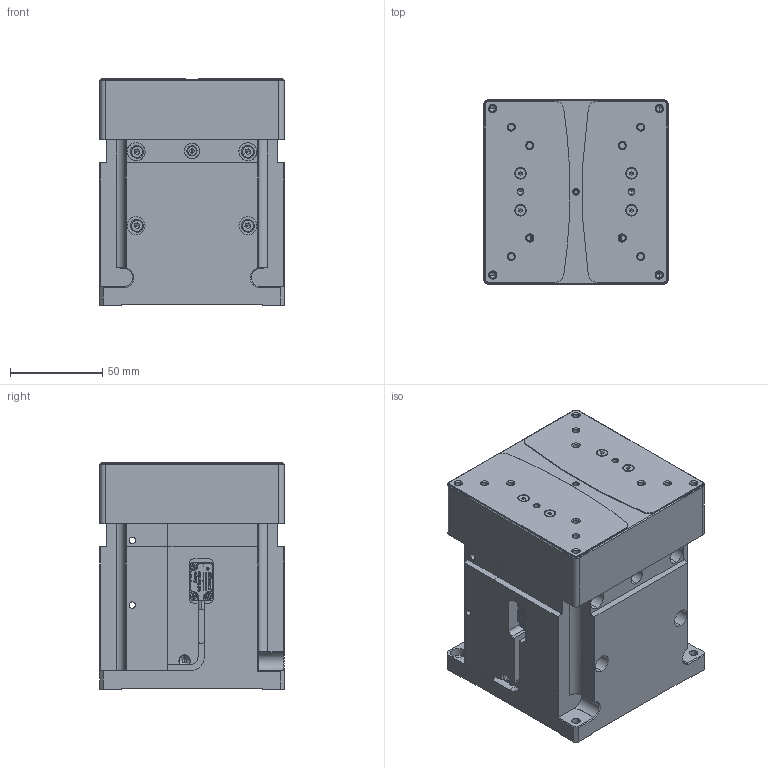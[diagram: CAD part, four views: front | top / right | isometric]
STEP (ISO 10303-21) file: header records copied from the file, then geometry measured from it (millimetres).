
FILE_DESCRIPTION (( 'STEP AP203' ), '1' );
FILE_NAME ('vs4-1025c_jc.STEP', '2023-04-26T03:05:07', ( '微软用户' ), ( '微软中国' ), 'SwSTEP 2.0', 'SolidWorks 2021', '' );
FILE_SCHEMA (( 'CONFIG_CONTROL_DESIGN' ));
Length unit declared in the file: millimetre
Products named in the file (20): VR4_80HX7Z_0__AF0_ASM; vs4-1025c_jc; cross recessed small pan head screws gb_GB_CROSS_SCREWS_TYPE3 M2X3-3-N; VR4_80_7Z_ROLLER_CAGE; MCP_VS4-1025C; VR4_80_7Z_ROLLER_GUIDE; M-9677-2500-01_A_1; M-9693-2499-02_A_2; HT_VS4-1025C; VR4_80HX7Z_0__AF1_ASM; ATOM_2T0_ASM; HTZJ_VS4-1025C; VR4_80_7ZR1; hexagon socket head cap screws gb_GB_FASTENER_SCREWS_HSHCS M3X6-N; M-9693-2499-02_A_1; M-9693-2499-02_A_ASM; hexagon socket head cap screws gb_GB_FASTENER_SCREWS_HSHCS M4X6-N; JZ_VS4-1025C; hexagon socket countersunk head screws gb_GB_FASTENER_SCREWS_HSCHS M3X8-N; MDZJ_VS4-1025C
Assembly tree (37 placements, depth 4):
  vs4-1025c_jc
    JZ_VS4-1025C
    VR4_80HX7Z_0__AF0_ASM
      VR4_80_7Z_ROLLER_GUIDE
      VR4_80_7Z_ROLLER_CAGE
      VR4_80_7ZR1
    VR4_80HX7Z_0__AF1_ASM
      VR4_80_7Z_ROLLER_GUIDE
      VR4_80_7Z_ROLLER_CAGE
      VR4_80_7ZR1
    HTZJ_VS4-1025C
    MDZJ_VS4-1025C
    HT_VS4-1025C
    MCP_VS4-1025C
    ATOM_2T0_ASM
      M-9677-2500-01_A_1
      M-9693-2499-02_A_ASM
        M-9693-2499-02_A_1
        M-9693-2499-02_A_2
    hexagon socket countersunk head screws gb_GB_FASTENER_SCREWS_HSCHS M3X8-N  x4
    hexagon socket head cap screws gb_GB_FASTENER_SCREWS_HSHCS M4X6-N  x11
    hexagon socket head cap screws gb_GB_FASTENER_SCREWS_HSHCS M3X6-N
    cross recessed small pan head screws gb_GB_CROSS_SCREWS_TYPE3 M2X3-3-N  x3
Bounding box: 100 x 100 x 122.5 mm (x, y, z)
Volume: 855453.6 mm3; surface area: 232871 mm2
Topology: 33 solids, 33 shells, 2397 faces, 6383 edges, 4126 vertices
Faces by surface type: plane 1271, cylinder 661, cone 290, bspline 137, torus 32, sphere 6
Entity records: 68757 total; most frequent: CARTESIAN_POINT 20468, ORIENTED_EDGE 9858, DIRECTION 8871, EDGE_CURVE 4929, VERTEX_POINT 3269, VECTOR 3069, LINE 3069, AXIS2_PLACEMENT_3D 2901
